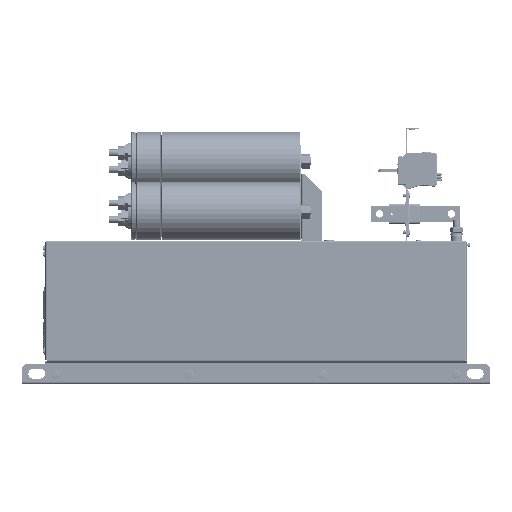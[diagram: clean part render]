
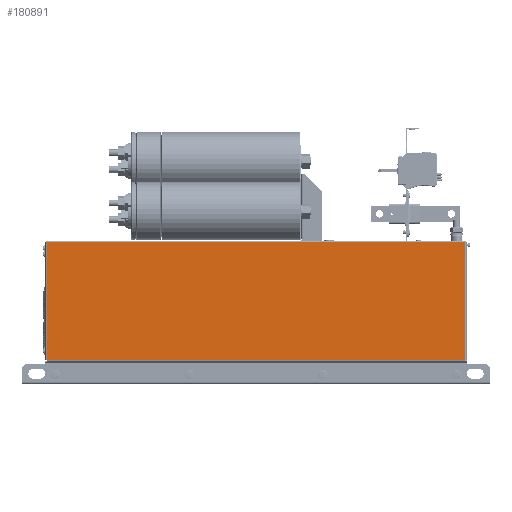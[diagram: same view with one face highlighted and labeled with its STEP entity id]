
A CAD part, left-side view. The second image highlights one B-rep face of the part: STEP entity #180891.
In plain terms, the highlighted planar face has unit normal (-1, 0, 0).
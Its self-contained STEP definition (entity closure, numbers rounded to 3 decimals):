
#7788=PLANE('',#193524);
#15789=FACE_OUTER_BOUND('',#25908,.T.);
#25908=EDGE_LOOP('',(#146770,#146771,#146772,#146773));
#49072=LINE('',#288756,#67118);
#49183=LINE('',#289051,#67229);
#49241=LINE('',#289430,#67287);
#49242=LINE('',#289431,#67288);
#67118=VECTOR('',#229424,10.);
#67229=VECTOR('',#229651,10.);
#67287=VECTOR('',#229787,10.);
#67288=VECTOR('',#229788,10.);
#83728=VERTEX_POINT('',#288749);
#83731=VERTEX_POINT('',#288754);
#83830=VERTEX_POINT('',#289037);
#83893=VERTEX_POINT('',#289429);
#105958=EDGE_CURVE('',#83728,#83731,#49072,.T.);
#106095=EDGE_CURVE('',#83731,#83830,#49183,.T.);
#106189=EDGE_CURVE('',#83728,#83893,#49241,.T.);
#106190=EDGE_CURVE('',#83893,#83830,#49242,.T.);
#146770=ORIENTED_EDGE('',*,*,#106189,.F.);
#146771=ORIENTED_EDGE('',*,*,#105958,.T.);
#146772=ORIENTED_EDGE('',*,*,#106095,.T.);
#146773=ORIENTED_EDGE('',*,*,#106190,.F.);
#180891=ADVANCED_FACE('',(#15789),#7788,.F.);
#193524=AXIS2_PLACEMENT_3D('',#289428,#229785,#229786);
#229424=DIRECTION('',(0.,1.,0.));
#229651=DIRECTION('',(0.,0.,-1.));
#229785=DIRECTION('center_axis',(1.,0.,0.));
#229786=DIRECTION('ref_axis',(0.,0.,
-1.));
#229787=DIRECTION('',(0.,0.,-1.));
#229788=DIRECTION('',(0.,1.,0.));
#288749=CARTESIAN_POINT('',(-225.,-312.7,212.7));
#288754=CARTESIAN_POINT('',(-225.,312.7,212.7));
#288756=CARTESIAN_POINT('',(-225.,315.,212.7));
#289037=CARTESIAN_POINT('',(-225.,312.7,36.353));
#289051=CARTESIAN_POINT('',(-225.,312.7,116.05));
#289428=CARTESIAN_POINT('Origin',(-225.,-315.,35.4));
#289429=CARTESIAN_POINT('',(-225.,-312.7,36.353));
#289430=CARTESIAN_POINT('',(-225.,-312.7,196.71));
#289431=CARTESIAN_POINT('',(-225.,-315.,36.353));
